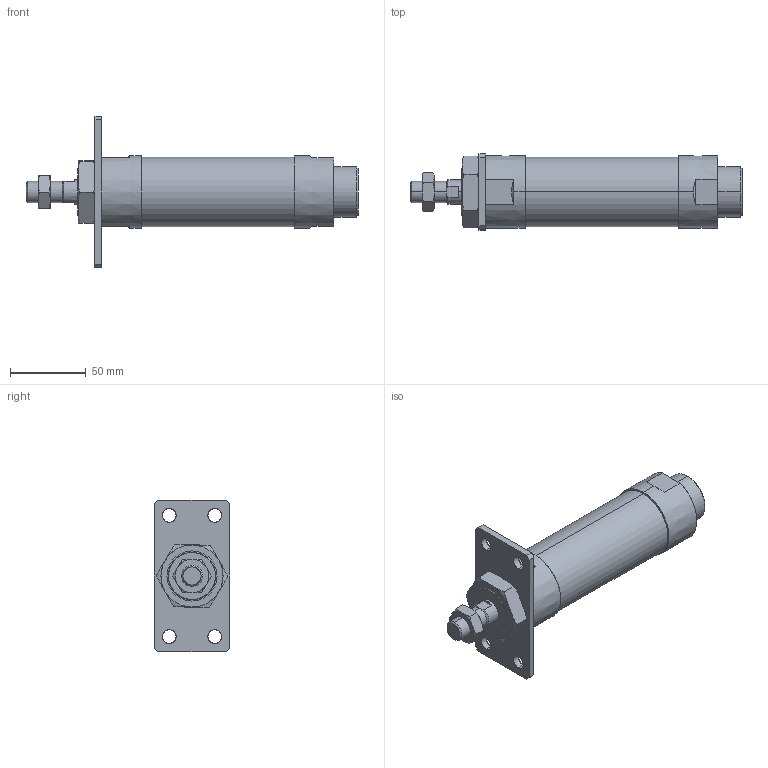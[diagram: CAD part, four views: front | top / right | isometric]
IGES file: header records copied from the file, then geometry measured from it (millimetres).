
Start section: SolidWorks IGES file using analytic representation for surfaces
Global section: file name: C:\Users\Toshiba\Desktop\J#2-40-50-A.IGS; native system: SolidWorks 2014; preprocessor: SolidWorks 2014; author: Toshiba; date: 160308.155310; units: millimetre
Bounding box: 219 x 50 x 100 mm (x, y, z)
Surface area: 47716.4 mm2 (no closed solid volume)
Topology: 0 solids, 0 shells, 114 faces, 2318 edges, 2314 vertices
Faces by surface type: bspline 67, revolution 47
